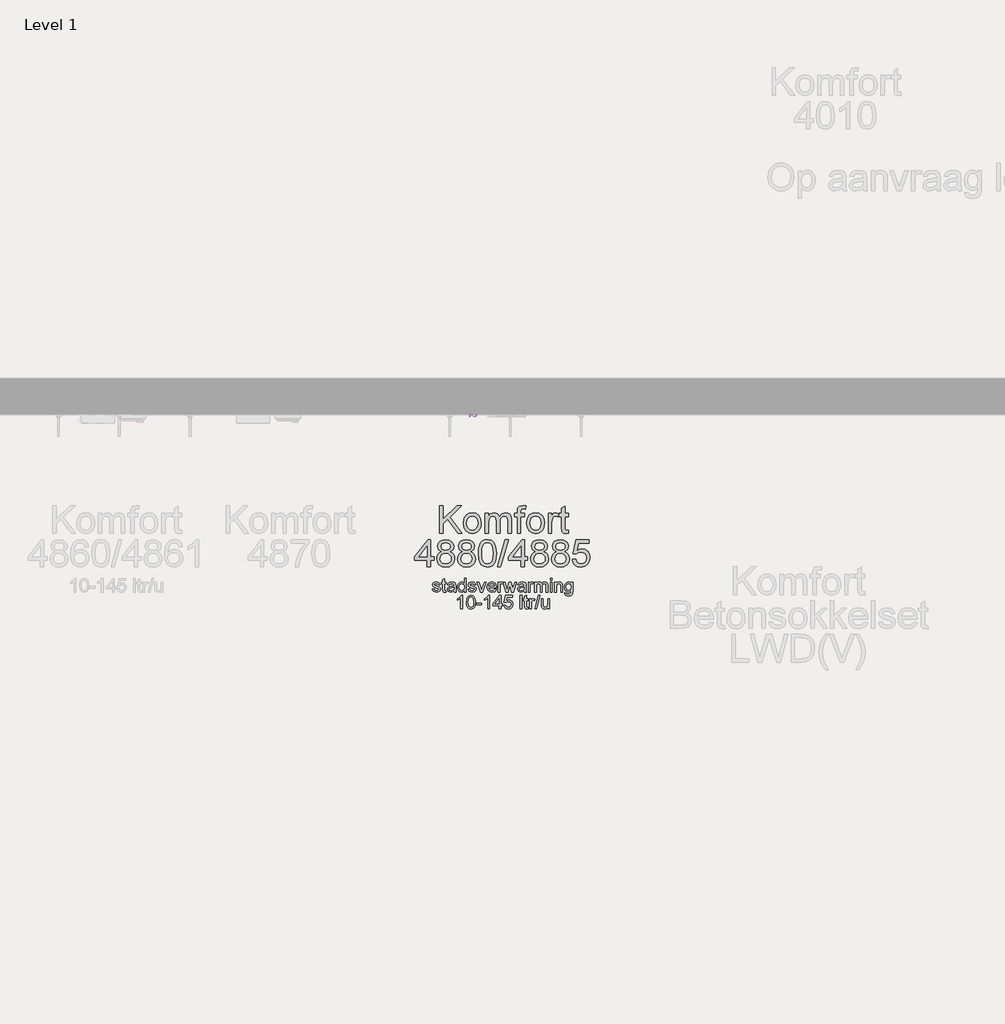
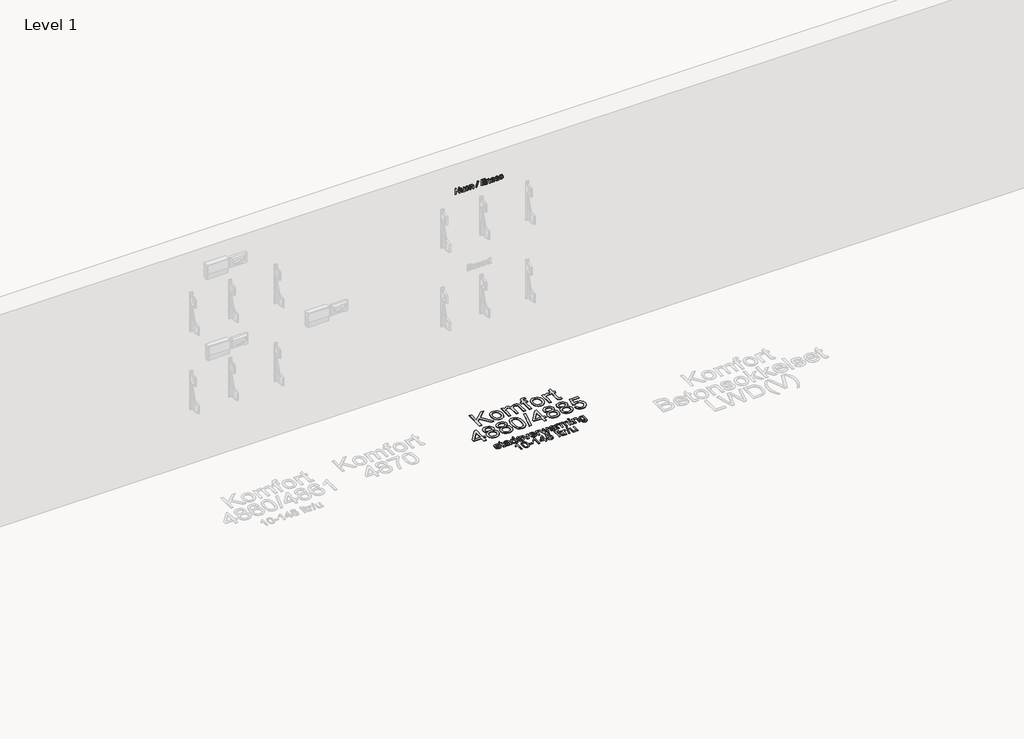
# One storey, part 25 of 34: 3 proxies.
"""IFC4 building model written with IfcOpenShell, lengths in millimetres."""

from ifc_helpers import new_model, si_unit, frame, origin, origin_with_axes, place, context, project, spatial, polyline, outline, extrude, element, save

model = new_model("IFC4")

# Units and contexts
model_context = context("Model", 3, world=origin())
ifc_project = project(units=[si_unit("LENGTHUNIT", "METRE", prefix="MILLI")], contexts=[model_context])

# Site, building, storey
site = spatial("IfcSite", under=ifc_project)
building = spatial("IfcBuilding", under=site)
storey = spatial("IfcBuildingStorey", under=building, Name="Level 1", Elevation=0.0)

# Proxies
placement = place(None, origin())
element("IfcBuildingElementProxy", 1, Name="klein", ObjectType="klein", at=placement, inside=storey, context=model_context, shape_type="SweptSolid", body=[
    extrude(outline(polyline([(1633.6596097, -4424.6620199), (1633.6596097, -4418.5081738), (1672.6740328, -4418.5081738), (1633.6596097, -4392.7870199), (1633.6596097, -4386.2004815), (1682.890379, -4386.2004815), (1682.890379, -4392.3543276), (1643.8879751, -4392.3543276), (1682.890379, -4418.0754815), (1682.890379, -4424.6620199), (1633.6596097, -4424.6620199)])), frame((0.0, 7579.9863889, 0.0), z_axis=(0.0, 1.0, 0.0), x_axis=(0.0, 0.0, 1.0)), (0.0, 0.0, 1.0), 10.0),
    extrude(outline(polyline([(1633.6596097, -4353.1235584), (1633.6596097, -4346.9697122), (1669.8134559, -4346.9697122), (1669.8134559, -4353.1235584), (1651.0033597, -4353.1235584), (1644.1463886, -4354.1211545), (1640.4144174, -4357.5165872), (1639.0442251, -4362.6548084), (1640.3843694, -4367.2401449), (1644.0682636, -4369.6740392), (1650.3423021, -4370.0466353), (1669.8134559, -4370.0466353), (1669.8134559, -4376.2004815), (1647.4456674, -4376.2004815), (1641.7245136, -4375.8399045), (1637.1932636, -4374.0069718), (1634.1163405, -4370.0165872), (1632.890379, -4364.2293276), (1634.6361722, -4357.9432699), (1639.8735521, -4353.1235584), (1633.6596097, -4353.1235584)])), frame((0.0, 7579.9863889, 0.0), z_axis=(0.0, 1.0, 0.0), x_axis=(0.0, 0.0, 1.0)), (0.0, 0.0, 1.0), 10.0),
    extrude(outline(polyline([(1651.7365328, -4340.0466353), (1637.7461482, -4335.5814911), (1632.890379, -4323.8807699), (1635.0959078, -4315.5454334), (1641.2918213, -4309.7341353), (1652.2413405, -4307.738943), (1665.7088886, -4312.2521642), (1670.5826867, -4323.8807699), (1666.5802828, -4334.7221161), (1660.4534799, -4338.7155055), (1651.7365328, -4340.0466353)]), holes=[polyline([(1651.7485521, -4333.8927892), (1661.2737924, -4331.0442315), (1664.4288405, -4323.8807699), (1661.2617732, -4316.7593757), (1651.9408597, -4313.8927892), (1642.2293213, -4316.7413468), (1639.0442251, -4323.8807699), (1642.2112924, -4331.0442315), (1651.7485521, -4333.8927892)])]), frame((0.0, 7579.9863889, 0.0), z_axis=(0.0, 1.0, 0.0), x_axis=(0.0, 0.0, 1.0)), (0.0, 0.0, 1.0), 10.0),
    extrude(outline(polyline([(1633.6596097, -4300.8158661), (1633.6596097, -4294.6620199), (1652.8423021, -4294.6620199), (1662.0129751, -4291.8555295), (1664.4288405, -4285.1788468), (1663.3531194, -4280.9540872), (1660.4745136, -4278.4480776), (1655.0298021, -4277.738943), (1633.6596097, -4277.738943), (1633.6596097, -4271.5850968), (1655.859129, -4271.5850968), (1661.8086482, -4271.9096161), (1666.3338886, -4273.754568), (1669.4108117, -4277.7209142), (1670.5826867, -4283.5322122), (1669.1283597, -4289.9564911), (1664.765379, -4294.6620199), (1669.8134559, -4294.6620199), (1669.8134559, -4300.8158661), (1633.6596097, -4300.8158661)])), frame((0.0, 7579.9863889, 0.0), z_axis=(0.0, 1.0, 0.0), x_axis=(0.0, 0.0, 1.0)), (0.0, 0.0, 1.0), 10.0),
    extrude(outline(polyline([(1633.6596097, -4248.5081738), (1633.6596097, -4242.9552892), (1682.890379, -4229.1091353), (1682.890379, -4234.6620199), (1633.6596097, -4248.5081738)])), frame((0.0, 7579.9863889, 0.0), z_axis=(0.0, 1.0, 0.0), x_axis=(0.0, 0.0, 1.0)), (0.0, 0.0, 1.0), 10.0),
    extrude(outline(polyline([(1633.6596097, -4204.6620199), (1633.6596097, -4168.5081738), (1639.8134559, -4168.5081738), (1639.8134559, -4198.5081738), (1655.9673021, -4198.5081738), (1655.9673021, -4170.8158661), (1662.1211482, -4170.8158661), (1662.1211482, -4198.5081738), (1676.7365328, -4198.5081738), (1676.7365328, -4169.2774045), (1682.890379, -4169.2774045), (1682.890379, -4204.6620199), (1633.6596097, -4204.6620199)])), frame((0.0, 7579.9863889, 0.0), z_axis=(0.0, 1.0, 0.0), x_axis=(0.0, 0.0, 1.0)), (0.0, 0.0, 1.0), 10.0),
    extrude(outline(polyline([(1633.6596097, -4160.0466353), (1633.6596097, -4153.8927892), (1652.8423021, -4153.8927892), (1662.0129751, -4151.0862988), (1664.4288405, -4144.4096161), (1663.3531194, -4140.1848565), (1660.4745136, -4137.6788468), (1655.0298021, -4136.9697122), (1633.6596097, -4136.9697122), (1633.6596097, -4130.8158661), (1655.859129, -4130.8158661), (1661.8086482, -4131.1403853), (1666.3338886, -4132.9853372), (1669.4108117, -4136.9516834), (1670.5826867, -4142.7629815), (1669.1283597, -4149.1872603), (1664.765379, -4153.8927892), (1669.8134559, -4153.8927892), (1669.8134559, -4160.0466353), (1633.6596097, -4160.0466353)])), frame((0.0, 7579.9863889, 0.0), z_axis=(0.0, 1.0, 0.0), x_axis=(0.0, 0.0, 1.0)), (0.0, 0.0, 1.0), 10.0),
    extrude(outline(polyline([(1644.4288405, -4097.0418276), (1640.3302828, -4101.0081738), (1639.0442251, -4107.0418276), (1641.8206674, -4114.9685103), (1649.8134559, -4118.5081738), (1649.8134559, -4090.8519238), (1651.4721097, -4090.8158661), (1665.5706674, -4095.4853372), (1670.5826867, -4107.5105776), (1665.5586482, -4119.8903853), (1651.4360521, -4124.6620199), (1637.7641771, -4119.9384622), (1632.890379, -4107.1620199), (1635.7148982, -4096.6512026), (1643.6596097, -4091.0081738), (1644.4288405, -4097.0418276)]), holes=[polyline([(1655.9673021, -4118.5081738), (1662.1271578, -4115.1127411), (1664.4288405, -4107.5346161), (1661.5442251, -4099.4336545), (1655.9673021, -4096.9697122), (1655.9673021, -4118.5081738)])]), frame((0.0, 7579.9863889, 0.0), z_axis=(0.0, 1.0, 0.0), x_axis=(0.0, 0.0, 1.0)), (0.0, 0.0, 1.0), 10.0),
    extrude(outline(polyline([(1646.7365328, -4061.5850968), (1640.9312444, -4064.535818), (1639.0442251, -4070.3350968), (1642.0670617, -4077.3603372), (1651.7725905, -4080.0466353), (1661.3879751, -4077.3002411), (1664.4288405, -4070.1668276), (1662.8843694, -4065.2088949), (1658.2749944, -4062.3543276), (1659.0442251, -4056.2004815), (1667.577879, -4060.8579334), (1670.5826867, -4070.2149045), (1668.3951867, -4078.5862988), (1661.8266771, -4084.3194718), (1651.6043213, -4086.2004815), (1637.7281194, -4081.7954334), (1632.890379, -4070.1307699), (1636.3579271, -4060.3711545), (1645.9673021, -4055.4312507), (1646.7365328, -4061.5850968)])), frame((0.0, 7579.9863889, 0.0), z_axis=(0.0, 1.0, 0.0), x_axis=(0.0, 0.0, 1.0)), (0.0, 0.0, 1.0), 10.0),
    extrude(outline(polyline([(1651.7365328, -4051.5850968), (1637.7461482, -4047.1199526), (1632.890379, -4035.4192315), (1635.0959078, -4027.0838949), (1641.2918213, -4021.2725968), (1652.2413405, -4019.2774045), (1665.7088886, -4023.7906257), (1670.5826867, -4035.4192315), (1666.5802828, -4046.2605776), (1660.4534799, -4050.253967), (1651.7365328, -4051.5850968)]), holes=[polyline([(1651.7485521, -4045.4312507), (1661.2737924, -4042.582693), (1664.4288405, -4035.4192315), (1661.2617732, -4028.2978372), (1651.9408597, -4025.4312507), (1642.2293213, -4028.2798084), (1639.0442251, -4035.4192315), (1642.2112924, -4042.582693), (1651.7485521, -4045.4312507)])]), frame((0.0, 7579.9863889, 0.0), z_axis=(0.0, 1.0, 0.0), x_axis=(0.0, 0.0, 1.0)), (0.0, 0.0, 1.0), 10.0),
])
element("IfcBuildingElementProxy", 2, Name="DN", ObjectType="DN", at=placement, inside=storey, context=model_context, shape_type="SweptSolid", body=[
    extrude(outline(polyline([(-4626.4103712, 6644.2118168), (-4617.179602, 6645.365663), (-4612.9067655, 6638.5147014), (-4603.117102, 6636.1348937), (-4593.7060443, 6638.3163841), (-4590.6411405, 6643.4365764), (-4593.7240732, 6647.583211), (-4603.2252751, 6650.2154226), (-4617.1255155, 6654.7316485), (-4623.1922222, 6660.005086), (-4625.2565251, 6667.4509995), (-4623.5978712, 6674.3290043), (-4619.0726309, 6679.584413), (-4613.2042414, 6682.3157832), (-4605.2625347, 6683.442586), (-4594.0305636, 6681.630687), (-4586.8911405, 6676.7268409), (-4583.7180636, 6668.442586), (-4592.9488328, 6667.2887399), (-4596.4193857, 6672.3818889), (-4604.5413809, 6674.2118168), (-4613.3755155, 6672.4630187), (-4616.0257559, 6668.3884995), (-4614.9259962, 6665.7022014), (-4611.4824866, 6663.6649418), (-4603.5317655, 6661.6997976), (-4589.9830876, 6657.3548457), (-4583.6910203, 6652.4329707), (-4581.4103712, 6644.4101341), (-4584.0876549, 6635.5759995), (-4591.8130155, 6629.1667447), (-4603.2433039, 6626.9041245), (-4619.3430636, 6631.2671053), (-4626.4103712, 6644.2118168)])), origin_with_axes(), (0.0, 0.0, 1.0), 5.0),
    extrude(outline(polyline([(-4551.4103712, 6635.756288), (-4550.2565251, 6627.787538), (-4557.1615732, 6626.9041245), (-4564.8959482, 6628.4365764), (-4568.7541212, 6632.4570091), (-4569.8719097, 6642.9317687), (-4569.8719097, 6673.0579707), (-4576.7949866, 6673.0579707), (-4576.7949866, 6682.2887399), (-4569.8719097, 6682.2887399), (-4569.8719097, 6695.4678264), (-4560.6411405, 6700.8945091), (-4560.6411405, 6682.2887399), (-4551.4103712, 6682.2887399), (-4551.4103712, 6673.0579707), (-4560.6411405, 6673.0579707), (-4560.6411405, 6643.2022014), (-4560.1543616, 6638.442586), (-4558.5768376, 6636.7568889), (-4555.4308039, 6636.1348937), (-4551.4103712, 6635.756288)])), origin_with_axes(), (0.0, 0.0, 1.0), 5.0),
    extrude(outline(polyline([(-4507.5642174, 6634.9810476), (-4516.5155395, 6628.725038), (-4526.4043616, 6626.9041245), (-4539.8088087, 6631.2851341), (-4544.4872943, 6642.4810476), (-4542.7204674, 6649.7827303), (-4538.0780395, 6655.083211), (-4531.6146982, 6658.1120572), (-4523.6279193, 6659.5002784), (-4507.6183039, 6662.6733553), (-4507.5642174, 6664.7286437), (-4510.1062847, 6671.5435476), (-4520.3106116, 6674.2118168), (-4529.6495539, 6672.4359755), (-4534.1026789, 6666.1348937), (-4543.3334482, 6667.2887399), (-4539.3400587, 6676.303163), (-4531.2991934, 6681.5856149), (-4519.1207078, 6683.442586), (-4507.9338087, 6681.801961), (-4501.6146982, 6677.6823697), (-4498.7841693, 6671.4173457), (-4498.3334482, 6663.3404226), (-4498.3334482, 6651.8560476), (-4497.8646982, 6635.8193889), (-4496.0257559, 6628.0579707), (-4505.2565251, 6628.0579707), (-4507.5642174, 6634.9810476)]), holes=[polyline([(-4507.5642174, 6653.442586), (-4522.4560443, 6650.6120572), (-4530.3977511, 6649.115663), (-4533.9945059, 6646.6817687), (-4535.2565251, 6643.130086), (-4532.5071261, 6638.1360957), (-4524.4392174, 6636.1348937), (-4515.1002751, 6638.3434274), (-4509.0786405, 6643.6889803), (-4507.6183039, 6650.8284034), (-4507.5642174, 6653.442586)])]), origin_with_axes(), (0.0, 0.0, 1.0), 5.0),
    extrude(outline(polyline([(-4452.179602, 6628.0579707), (-4452.179602, 6636.7659034), (-4458.2868737, 6629.3695692), (-4466.7288809, 6626.9041245), (-4478.1591693, 6630.473836), (-4486.2360924, 6640.4347735), (-4489.1026789, 6655.1192687), (-4486.461453, 6669.8127784), (-4478.5467895, 6679.926961), (-4466.7649386, 6683.442586), (-4458.2553232, 6680.927562), (-4452.179602, 6674.3921053), (-4452.179602, 6701.9041245), (-4442.9488328, 6701.9041245), (-4442.9488328, 6628.0579707), (-4452.179602, 6628.0579707)]), holes=[polyline([(-4479.8719097, 6655.1553264), (-4475.7072462, 6640.8674659), (-4465.8815251, 6636.1348937), (-4456.1729914, 6640.6511197), (-4452.179602, 6654.4522014), (-4456.2451068, 6669.4341726), (-4466.2601309, 6674.2118168), (-4475.9776789, 6669.6234755), (-4479.8719097, 6655.1553264)])]), origin_with_axes(), (0.0, 0.0, 1.0), 5.0),
    extrude(outline(polyline([(-4432.5642174, 6644.2118168), (-4423.3334482, 6645.365663), (-4419.0606116, 6638.5147014), (-4409.2709482, 6636.1348937), (-4399.8598905, 6638.3163841), (-4396.7949866, 6643.4365764), (-4399.8779193, 6647.583211), (-4409.3791212, 6650.2154226), (-4423.2793616, 6654.7316485), (-4429.3460684, 6660.005086), (-4431.4103712, 6667.4509995), (-4429.7517174, 6674.3290043), (-4425.226477, 6679.584413), (-4419.3580876, 6682.3157832), (-4411.4163809, 6683.442586), (-4400.1844097, 6681.630687), (-4393.0449866, 6676.7268409), (-4389.8719097, 6668.442586), (-4399.1026789, 6667.2887399), (-4402.5732318, 6672.3818889), (-4410.695227, 6674.2118168), (-4419.5293616, 6672.4630187), (-4422.179602, 6668.3884995), (-4421.0798424, 6665.7022014), (-4417.6363328, 6663.6649418), (-4409.6856116, 6661.6997976), (-4396.1369337, 6657.3548457), (-4389.8448664, 6652.4329707), (-4387.5642174, 6644.4101341), (-4390.2415011, 6635.5759995), (-4397.9668616, 6629.1667447), (-4409.3971501, 6626.9041245), (-4425.4969097, 6631.2671053), (-4432.5642174, 6644.2118168)])), origin_with_axes(), (0.0, 0.0, 1.0), 5.0),
    extrude(outline(polyline([(-4363.8743136, 6628.0579707), (-4382.9488328, 6682.2887399), (-4373.1771982, 6682.2887399), (-4361.6207078, 6649.8007591), (-4358.1411405, 6638.8752784), (-4354.7336886, 6649.1877784), (-4343.1050828, 6682.2887399), (-4333.3334482, 6682.2887399), (-4352.1735924, 6628.0579707), (-4363.8743136, 6628.0579707)])), origin_with_axes(), (0.0, 0.0, 1.0), 5.0),
    extrude(outline(polyline([(-4287.2877751, 6644.2118168), (-4278.2372943, 6643.0579707), (-4286.7018376, 6631.1409034), (-4302.4680636, 6626.9041245), (-4313.2988929, 6628.7317988), (-4321.632727, 6634.2148216), (-4326.9467294, 6642.9971233), (-4328.7180636, 6654.7226341), (-4326.9287006, 6666.842526), (-4321.5606116, 6675.9065284), (-4313.3394578, 6681.5585716), (-4302.9909001, 6683.442586), (-4292.964608, 6681.5630788), (-4284.9530395, 6675.9245572), (-4279.6998845, 6666.8785836), (-4277.9488328, 6654.7767207), (-4278.0029193, 6652.2887399), (-4319.4872943, 6652.2887399), (-4314.1777991, 6640.2995572), (-4302.2877751, 6636.1348937), (-4293.2372943, 6638.0639803), (-4287.2877751, 6644.2118168)]), holes=[polyline([(-4319.4872943, 6661.5195091), (-4287.179602, 6661.5195091), (-4290.8755155, 6669.8848937), (-4303.0269578, 6674.2118168), (-4314.3941453, 6670.7592928), (-4319.4872943, 6661.5195091)])]), origin_with_axes(), (0.0, 0.0, 1.0), 5.0),
    extrude(outline(polyline([(-4268.7180636, 6628.0579707), (-4268.7180636, 6682.2887399), (-4260.6411405, 6682.2887399), (-4260.6411405, 6674.2659034), (-4254.9079674, 6681.6577303), (-4249.1387366, 6683.442586), (-4239.8719097, 6680.5940284), (-4242.9548424, 6672.318788), (-4249.445227, 6674.2118168), (-4254.664578, 6672.3909034), (-4257.9909001, 6667.3428264), (-4259.4872943, 6656.5615764), (-4259.4872943, 6628.0579707), (-4268.7180636, 6628.0579707)])), origin_with_axes(), (0.0, 0.0, 1.0), 5.0),
    extrude(outline(polyline([(-4225.1062847, 6628.0579707), (-4241.6026789, 6682.2887399), (-4232.0113328, 6682.2887399), (-4222.6543616, 6650.6481149), (-4219.8598905, 6639.3440284), (-4217.570227, 6650.2334514), (-4210.1243136, 6682.2887399), (-4199.1267174, 6682.2887399), (-4191.7168616, 6650.3235957), (-4189.679602, 6640.4618168), (-4186.7589289, 6650.864461), (-4177.3839289, 6682.2887399), (-4167.7565251, 6682.2887399), (-4184.3791212, 6628.0579707), (-4195.538977, 6628.0579707), (-4202.6243136, 6659.8608553), (-4204.679602, 6669.7767207), (-4213.820227, 6628.0579707), (-4225.1062847, 6628.0579707)])), origin_with_axes(), (0.0, 0.0, 1.0), 5.0),
    extrude(outline(polyline([(-4126.7949866, 6634.9810476), (-4135.7463087, 6628.725038), (-4145.6351309, 6626.9041245), (-4159.039578, 6631.2851341), (-4163.7180636, 6642.4810476), (-4161.9512366, 6649.7827303), (-4157.3088087, 6655.083211), (-4150.8454674, 6658.1120572), (-4142.8586886, 6659.5002784), (-4126.8490732, 6662.6733553), (-4126.7949866, 6664.7286437), (-4129.3370539, 6671.5435476), (-4139.5413809, 6674.2118168), (-4148.8803232, 6672.4359755), (-4153.3334482, 6666.1348937), (-4162.5642174, 6667.2887399), (-4158.570828, 6676.303163), (-4150.5299626, 6681.5856149), (-4138.351477, 6683.442586), (-4127.164578, 6681.801961), (-4120.8454674, 6677.6823697), (-4118.0149386, 6671.4173457), (-4117.5642174, 6663.3404226), (-4117.5642174, 6651.8560476), (-4117.0954674, 6635.8193889), (-4115.2565251, 6628.0579707), (-4124.4872943, 6628.0579707), (-4126.7949866, 6634.9810476)]), holes=[polyline([(-4126.7949866, 6653.442586), (-4141.6868136, 6650.6120572), (-4149.6285203, 6649.115663), (-4153.2252751, 6646.6817687), (-4154.4872943, 6643.130086), (-4151.7378953, 6638.1360957), (-4143.6699866, 6636.1348937), (-4134.3310443, 6638.3434274), (-4128.3094097, 6643.6889803), (-4126.8490732, 6650.8284034), (-4126.7949866, 6653.442586)])]), origin_with_axes(), (0.0, 0.0, 1.0), 5.0),
    extrude(outline(polyline([(-4104.8719097, 6628.0579707), (-4104.8719097, 6682.2887399), (-4096.7949866, 6682.2887399), (-4096.7949866, 6674.2659034), (-4091.0618136, 6681.6577303), (-4085.2925828, 6683.442586), (-4076.0257559, 6680.5940284), (-4079.1086886, 6672.318788), (-4085.5990732, 6674.2118168), (-4090.8184241, 6672.3909034), (-4094.1447462, 6667.3428264), (-4095.6411405, 6656.5615764), (-4095.6411405, 6628.0579707), (-4104.8719097, 6628.0579707)])), origin_with_axes(), (0.0, 0.0, 1.0), 5.0),
    extrude(outline(polyline([(-4070.2565251, 6628.0579707), (-4070.2565251, 6682.2887399), (-4061.0257559, 6682.2887399), (-4061.0257559, 6673.364461), (-4054.679602, 6680.6751582), (-4045.6471501, 6683.442586), (-4036.398352, 6680.6210716), (-4031.3142174, 6672.7154226), (-4024.1116934, 6680.7607952), (-4015.0161405, 6683.442586), (-4002.945828, 6678.9804466), (-3998.7180636, 6665.2334514), (-3998.7180636, 6628.0579707), (-4007.9488328, 6628.0579707), (-4007.9488328, 6661.2671053), (-4008.805203, 6668.974437), (-4011.9061645, 6672.7695091), (-4017.179602, 6674.2118168), (-4026.2571261, 6670.5159034), (-4029.8719097, 6658.6709514), (-4029.8719097, 6628.0579707), (-4039.1026789, 6628.0579707), (-4039.1026789, 6662.2947495), (-4041.2390972, 6671.2370572), (-4048.2433039, 6674.2118168), (-4055.0762366, 6672.2286437), (-4059.6195059, 6666.4233553), (-4061.0257559, 6655.4077303), (-4061.0257559, 6628.0579707), (-4070.2565251, 6628.0579707)])), origin_with_axes(), (0.0, 0.0, 1.0), 5.0),
    extrude(outline(polyline([(-3984.8719097, 6692.6733553), (-3984.8719097, 6701.9041245), (-3975.6411405, 6701.9041245), (-3975.6411405, 6692.6733553), (-3984.8719097, 6692.6733553)])), origin_with_axes(), (0.0, 0.0, 1.0), 5.0),
    extrude(outline(polyline([(-3984.8719097, 6628.0579707), (-3984.8719097, 6682.2887399), (-3975.6411405, 6682.2887399), (-3975.6411405, 6628.0579707), (-3984.8719097, 6628.0579707)])), origin_with_axes(), (0.0, 0.0, 1.0), 5.0),
    extrude(outline(polyline([(-3961.7949866, 6628.0579707), (-3961.7949866, 6682.2887399), (-3952.5642174, 6682.2887399), (-3952.5642174, 6674.7166245), (-3945.5059241, 6681.2610957), (-3935.8695059, 6683.442586), (-3927.1525587, 6681.6847735), (-3921.2030395, 6677.0693889), (-3918.4356116, 6670.2815284), (-3917.9488328, 6661.3572495), (-3917.9488328, 6628.0579707), (-3927.179602, 6628.0579707), (-3927.179602, 6660.1132591), (-3928.2433039, 6668.2803264), (-3932.0023184, 6672.5982351), (-3938.3394578, 6674.2118168), (-3948.3544818, 6670.5880187), (-3952.5642174, 6656.8320091), (-3952.5642174, 6628.0579707), (-3961.7949866, 6628.0579707)])), origin_with_axes(), (0.0, 0.0, 1.0), 5.0),
    extrude(outline(polyline([(-3907.5642174, 6623.442586), (-3898.3334482, 6622.2887399), (-3895.3406597, 6617.4209514), (-3886.3803232, 6615.365663), (-3876.9332078, 6617.6913841), (-3872.4259962, 6624.2178264), (-3871.7949866, 6634.9810476), (-3878.2943857, 6629.7887399), (-3886.2180636, 6628.0579707), (-3895.7350407, 6630.0726942), (-3902.8316453, 6636.1168649), (-3907.246459, 6644.9780428), (-3908.7180636, 6655.443788), (-3906.0768376, 6669.7496774), (-3898.4326068, 6679.8728745), (-3886.6687847, 6683.442586), (-3878.4341092, 6681.4233553), (-3871.7949866, 6675.365663), (-3871.7949866, 6682.2887399), (-3862.5642174, 6682.2887399), (-3862.5642174, 6635.4678264), (-3865.0882559, 6617.5381389), (-3873.0840491, 6609.1997976), (-3886.5606116, 6606.1348937), (-3901.9121741, 6610.4528024), (-3906.2503652, 6615.8592026), (-3907.5642174, 6623.442586)]), holes=[polyline([(-3899.4872943, 6656.0747976), (-3895.5479914, 6641.786937), (-3885.6591693, 6637.2887399), (-3875.7883761, 6641.7598937), (-3871.7949866, 6655.8043649), (-3875.9055636, 6669.5693889), (-3885.8034001, 6674.2118168), (-3895.4939049, 6669.6415043), (-3899.4872943, 6656.0747976)])]), origin_with_axes(), (0.0, 0.0, 1.0), 5.0),
    extrude(outline(polyline([(-4462.5642174, 6536.9041245), (-4471.7949866, 6536.9041245), (-4471.7949866, 6594.4522014), (-4480.538977, 6588.2232351), (-4490.2565251, 6583.5627784), (-4490.2565251, 6592.2887399), (-4476.7258761, 6600.9245572), (-4468.5137366, 6610.7502784), (-4462.5642174, 6610.7502784), (-4462.5642174, 6536.9041245)])), origin_with_axes(), (0.0, 0.0, 1.0), 5.0),
    extrude(outline(polyline([(-4440.6411405, 6573.2322495), (-4437.9277991, 6594.4792447), (-4429.8689049, 6606.7298457), (-4416.4103712, 6610.7502784), (-4405.6291212, 6608.3704707), (-4398.1832078, 6601.5104947), (-4393.8562847, 6590.5850139), (-4392.179602, 6573.2322495), (-4394.8659001, 6552.0753985), (-4402.8977511, 6539.7977543), (-4416.4103712, 6535.7502784), (-4426.0017174, 6537.5080909), (-4433.2853712, 6542.7815284), (-4438.8021982, 6555.2710115), (-4440.6411405, 6573.2322495)]), holes=[polyline([(-4431.4103712, 6573.2502784), (-4430.3286405, 6558.7302964), (-4427.0834482, 6550.3266005), (-4416.4103712, 6544.9810476), (-4405.7372943, 6550.3446293), (-4402.492102, 6558.7528324), (-4401.4103712, 6573.2502784), (-4405.5930636, 6595.912538), (-4416.5185443, 6601.5195091), (-4426.9392174, 6596.5796053), (-4430.2925828, 6587.583211), (-4431.4103712, 6573.2502784)])]), origin_with_axes(), (0.0, 0.0, 1.0), 5.0),
    extrude(outline(polyline([(-4386.4103712, 6558.8272014), (-4386.4103712, 6568.0579707), (-4357.5642174, 6568.0579707), (-4357.5642174, 6558.8272014), (-4386.4103712, 6558.8272014)])), origin_with_axes(), (0.0, 0.0, 1.0), 5.0),
    extrude(outline(polyline([(-4314.8719097, 6536.9041245), (-4324.1026789, 6536.9041245), (-4324.1026789, 6594.4522014), (-4332.8466693, 6588.2232351), (-4342.5642174, 6583.5627784), (-4342.5642174, 6592.2887399), (-4329.0335684, 6600.9245572), (-4320.8214289, 6610.7502784), (-4314.8719097, 6610.7502784), (-4314.8719097, 6536.9041245)])), origin_with_axes(), (0.0, 0.0, 1.0), 5.0),
    extrude(outline(polyline([(-4262.9488328, 6536.9041245), (-4262.9488328, 6554.2118168), (-4296.4103712, 6554.2118168), (-4296.4103712, 6563.442586), (-4260.6411405, 6609.5964322), (-4253.7180636, 6609.5964322), (-4253.7180636, 6563.442586), (-4244.4872943, 6563.442586), (-4244.4872943, 6554.2118168), (-4253.7180636, 6554.2118168), (-4253.7180636, 6536.9041245), (-4262.9488328, 6536.9041245)]), holes=[polyline([(-4262.9488328, 6563.442586), (-4262.9488328, 6591.9642207), (-4285.0521982, 6563.442586), (-4262.9488328, 6563.442586)])]), origin_with_axes(), (0.0, 0.0, 1.0), 5.0),
    extrude(outline(polyline([(-4236.4103712, 6556.5195091), (-4227.179602, 6557.6733553), (-4222.5281597, 6548.1631389), (-4212.882727, 6544.9810476), (-4201.3082078, 6549.4071293), (-4197.179602, 6561.1529226), (-4201.0467895, 6572.114461), (-4212.7384962, 6576.1348937), (-4220.8424626, 6574.5303264), (-4226.0257559, 6570.365663), (-4235.2565251, 6571.5195091), (-4227.179602, 6609.5964322), (-4191.4103712, 6609.5964322), (-4191.4103712, 6600.365663), (-4219.7156597, 6600.365663), (-4223.663977, 6580.0291245), (-4210.1603712, 6585.365663), (-4201.535822, 6583.7115163), (-4194.3761164, 6578.7490764), (-4189.5556537, 6571.1859755), (-4187.9488328, 6561.7298457), (-4193.7360924, 6544.6024418), (-4202.0473905, 6537.9633192), (-4212.9187847, 6535.7502784), (-4221.9850407, 6537.1723036), (-4229.2078472, 6541.4383793), (-4234.1590191, 6548.0527123), (-4236.4103712, 6556.5195091)])), origin_with_axes(), (0.0, 0.0, 1.0), 5.0),
    extrude(outline(polyline([(-4148.7180636, 6536.9041245), (-4148.7180636, 6610.7502784), (-4139.4872943, 6610.7502784), (-4139.4872943, 6536.9041245), (-4148.7180636, 6536.9041245)])), origin_with_axes(), (0.0, 0.0, 1.0), 5.0),
    extrude(outline(polyline([(-4106.0257559, 6544.6024418), (-4104.8719097, 6536.6336918), (-4111.7769578, 6535.7502784), (-4119.5113328, 6537.2827303), (-4123.3695059, 6541.303163), (-4124.4872943, 6551.7779226), (-4124.4872943, 6581.9041245), (-4131.4103712, 6581.9041245), (-4131.4103712, 6591.1348937), (-4124.4872943, 6591.1348937), (-4124.4872943, 6604.3139803), (-4115.2565251, 6609.740663), (-4115.2565251, 6591.1348937), (-4106.0257559, 6591.1348937), (-4106.0257559, 6581.9041245), (-4115.2565251, 6581.9041245), (-4115.2565251, 6552.0483553), (-4114.7697462, 6547.2887399), (-4113.1922222, 6545.6030428), (-4110.0461886, 6544.9810476), (-4106.0257559, 6544.6024418)])), origin_with_axes(), (0.0, 0.0, 1.0), 5.0),
    extrude(outline(polyline([(-4096.7949866, 6536.9041245), (-4096.7949866, 6591.1348937), (-4088.7180636, 6591.1348937), (-4088.7180636, 6583.1120572), (-4082.9848905, 6590.5038841), (-4077.2156597, 6592.2887399), (-4067.9488328, 6589.4401822), (-4071.0317655, 6581.1649418), (-4077.5221501, 6583.0579707), (-4082.7415011, 6581.2370572), (-4086.0678232, 6576.1889803), (-4087.5642174, 6565.4077303), (-4087.5642174, 6536.9041245), (-4096.7949866, 6536.9041245)])), origin_with_axes(), (0.0, 0.0, 1.0), 5.0),
    extrude(outline(polyline([(-4069.1026789, 6536.9041245), (-4048.3334482, 6610.7502784), (-4040.0041212, 6610.7502784), (-4060.773352, 6536.9041245), (-4069.1026789, 6536.9041245)])), origin_with_axes(), (0.0, 0.0, 1.0), 5.0),
    extrude(outline(polyline([(-3998.7180636, 6536.9041245), (-3998.7180636, 6546.225038), (-4005.9476309, 6538.3689683), (-4015.3767174, 6535.7502784), (-4024.0576068, 6537.5892207), (-4030.0431837, 6542.2046053), (-4032.7925828, 6549.0014803), (-4033.3334482, 6557.583211), (-4033.3334482, 6591.1348937), (-4024.1026789, 6591.1348937), (-4024.1026789, 6561.928163), (-4023.5437847, 6552.5171053), (-4019.8929434, 6546.9912639), (-4013.0149386, 6544.9810476), (-4005.3076068, 6547.036336), (-4000.2144578, 6552.6342928), (-3998.7180636, 6562.9197495), (-3998.7180636, 6591.1348937), (-3989.4872943, 6591.1348937), (-3989.4872943, 6536.9041245), (-3998.7180636, 6536.9041245)])), origin_with_axes(), (0.0, 0.0, 1.0), 5.0),
])
element("IfcBuildingElementProxy", 3, Name="type", ObjectType="type", at=placement, inside=storey, context=model_context, shape_type="SweptSolid", body=[
    extrude(outline(polyline([(-4586.6026789, 6948.0579707), (-4586.6026789, 7095.7502784), (-4568.1411405, 7095.7502784), (-4568.1411405, 7023.4546053), (-4492.4199866, 7095.7502784), (-4466.6026789, 7095.7502784), (-4530.1723905, 7035.0291245), (-4464.2949866, 6948.0579707), (-4486.867102, 6948.0579707), (-4543.2613328, 7022.553163), (-4568.1411405, 6998.8272014), (-4568.1411405, 6948.0579707), (-4586.6026789, 6948.0579707)])), origin_with_axes(), (0.0, 0.0, 1.0), 5.0),
    extrude(outline(polyline([(-4457.3719097, 7002.2887399), (-4453.3785203, 7028.4395812), (-4441.398352, 7046.8199899), (-4426.5966693, 7055.8253985), (-4408.8743136, 7058.8272014), (-4389.4797823, 7055.1718529), (-4373.9884962, 7044.2058072), (-4363.8337487, 7026.794449), (-4360.4488328, 7003.803163), (-4361.945227, 6985.1523216), (-4366.4344097, 6970.9546053), (-4373.7856717, 6960.3220933), (-4383.8683039, 6952.3668649), (-4395.843965, 6947.404425), (-4408.8743136, 6945.7502784), (-4428.5032198, 6949.3921053), (-4443.976477, 6960.317586), (-4454.0230515, 6978.0940284), (-4457.3719097, 7002.2887399)]), holes=[polyline([(-4438.9103712, 7002.3247976), (-4436.773953, 6985.6165644), (-4430.3646982, 6973.7130187), (-4420.7192655, 6966.5871173), (-4408.8743136, 6964.2118168), (-4397.0834482, 6966.6006389), (-4387.4560443, 6973.7671053), (-4381.0467895, 6985.8284034), (-4378.9103712, 7002.9017207), (-4381.0603112, 7019.123175), (-4387.5101309, 7030.864461), (-4397.1510563, 7037.9903625), (-4408.8743136, 7040.365663), (-4420.7192655, 7037.9993769), (-4430.3646982, 7030.9005187), (-4436.773953, 7019.0240163), (-4438.9103712, 7002.3247976)])]), origin_with_axes(), (0.0, 0.0, 1.0), 5.0),
    extrude(outline(polyline([(-4339.679602, 6948.0579707), (-4339.679602, 7056.5195091), (-4321.2180636, 7056.5195091), (-4321.2180636, 7038.6709514), (-4308.5257559, 7053.2923457), (-4290.460852, 7058.8272014), (-4280.1934241, 7057.4164442), (-4271.9632559, 7053.1841726), (-4261.7949866, 7037.3728745), (-4247.3899386, 7053.4636197), (-4229.1988328, 7058.8272014), (-4215.3211285, 7056.5961317), (-4205.0582078, 7049.9029226), (-4198.7165612, 7038.5672856), (-4196.6026789, 7022.4089322), (-4196.6026789, 6948.0579707), (-4215.0642174, 6948.0579707), (-4215.0642174, 7014.4762399), (-4216.7769578, 7029.8909034), (-4222.9788809, 7037.4810476), (-4233.5257559, 7040.365663), (-4243.5272583, 7038.5177062), (-4251.6808039, 7032.973836), (-4257.1029794, 7023.3554466), (-4258.9103712, 7009.2839322), (-4258.9103712, 6948.0579707), (-4277.3719097, 6948.0579707), (-4277.3719097, 7016.5315284), (-4281.6447462, 7034.4161437), (-4287.2832679, 7038.8782832), (-4295.6531597, 7040.365663), (-4309.3190251, 7036.3993168), (-4318.4055636, 7024.7887399), (-4321.2180636, 7002.7574899), (-4321.2180636, 6948.0579707), (-4339.679602, 6948.0579707)])), origin_with_axes(), (0.0, 0.0, 1.0), 5.0),
    extrude(outline(polyline([(-4164.2949866, 6948.0579707), (-4164.2949866, 7038.0579707), (-4180.4488328, 7038.0579707), (-4180.4488328, 7056.5195091), (-4164.2949866, 7056.5195091), (-4164.2949866, 7067.4449899), (-4162.3478712, 7082.8416245), (-4152.9007559, 7093.8392207), (-4134.2949866, 7098.0579707), (-4117.4560443, 7096.0387399), (-4120.1603712, 7078.7310476), (-4130.7973905, 7079.5964322), (-4142.4259962, 7076.5315284), (-4145.8334482, 7065.1012399), (-4145.8334482, 7056.5195091), (-4125.0642174, 7056.5195091), (-4125.0642174, 7038.0579707), (-4145.8334482, 7038.0579707), (-4145.8334482, 6948.0579707), (-4164.2949866, 6948.0579707)])), origin_with_axes(), (0.0, 0.0, 1.0), 5.0),
    extrude(outline(polyline([(-4113.5257559, 7002.2887399), (-4109.5323664, 7028.4395812), (-4097.5521982, 7046.8199899), (-4082.7505155, 7055.8253985), (-4065.0281597, 7058.8272014), (-4045.6336285, 7055.1718529), (-4030.1423424, 7044.2058072), (-4019.9875948, 7026.794449), (-4016.6026789, 7003.803163), (-4018.0990732, 6985.1523216), (-4022.5882559, 6970.9546053), (-4029.9395179, 6960.3220933), (-4040.0221501, 6952.3668649), (-4051.9978112, 6947.404425), (-4065.0281597, 6945.7502784), (-4084.657066, 6949.3921053), (-4100.1303232, 6960.317586), (-4110.1768977, 6978.0940284), (-4113.5257559, 7002.2887399)]), holes=[polyline([(-4095.0642174, 7002.3247976), (-4092.9277991, 6985.6165644), (-4086.5185443, 6973.7130187), (-4076.8731116, 6966.5871173), (-4065.0281597, 6964.2118168), (-4053.2372943, 6966.6006389), (-4043.6098905, 6973.7671053), (-4037.2006357, 6985.8284034), (-4035.0642174, 7002.9017207), (-4037.2141573, 7019.123175), (-4043.663977, 7030.864461), (-4053.3049025, 7037.9903625), (-4065.0281597, 7040.365663), (-4076.8731116, 7037.9993769), (-4086.5185443, 7030.9005187), (-4092.9277991, 7019.0240163), (-4095.0642174, 7002.3247976)])]), origin_with_axes(), (0.0, 0.0, 1.0), 5.0),
    extrude(outline(polyline([(-3995.8334482, 6948.0579707), (-3995.8334482, 7056.5195091), (-3979.679602, 7056.5195091), (-3979.679602, 7040.473836), (-3968.2132559, 7055.2574899), (-3956.6747943, 7058.8272014), (-3938.1411405, 7053.130086), (-3944.3070059, 7036.5796053), (-3957.2877751, 7040.365663), (-3967.726477, 7036.723836), (-3974.3791212, 7026.6276822), (-3977.3719097, 7005.0651822), (-3977.3719097, 6948.0579707), (-3995.8334482, 6948.0579707)])), origin_with_axes(), (0.0, 0.0, 1.0), 5.0),
    extrude(outline(polyline([(-3887.3719097, 6963.4546053), (-3885.0642174, 6947.5171053), (-3898.8743136, 6945.7502784), (-3914.3430636, 6948.8151822), (-3922.0594097, 6956.8560476), (-3924.2949866, 6977.8055668), (-3924.2949866, 7038.0579707), (-3938.1411405, 7038.0579707), (-3938.1411405, 7056.5195091), (-3924.2949866, 7056.5195091), (-3924.2949866, 7082.8776822), (-3905.8334482, 7093.7310476), (-3905.8334482, 7056.5195091), (-3887.3719097, 7056.5195091), (-3887.3719097, 7038.0579707), (-3905.8334482, 7038.0579707), (-3905.8334482, 6978.3464322), (-3904.8598905, 6968.8272014), (-3901.7048424, 6965.4558072), (-3895.4127751, 6964.2118168), (-3887.3719097, 6963.4546053)])), origin_with_axes(), (0.0, 0.0, 1.0), 5.0),
    extrude(outline(polyline([(-4654.679602, 6765.7502784), (-4654.679602, 6800.365663), (-4721.6026789, 6800.365663), (-4721.6026789, 6818.8272014), (-4650.0642174, 6911.1348937), (-4636.2180636, 6911.1348937), (-4636.2180636, 6818.8272014), (-4617.7565251, 6818.8272014), (-4617.7565251, 6800.365663), (-4636.2180636, 6800.365663), (-4636.2180636, 6765.7502784), (-4654.679602, 6765.7502784)]), holes=[polyline([(-4654.679602, 6818.8272014), (-4654.679602, 6875.8704707), (-4698.8863328, 6818.8272014), (-4654.679602, 6818.8272014)])]), origin_with_axes(), (0.0, 0.0, 1.0), 5.0),
    extrude(outline(polyline([(-4574.7036405, 6847.0964322), (-4591.5245539, 6858.5627784), (-4596.9872943, 6876.411336), (-4594.0125347, 6890.8434274), (-4585.0882559, 6902.7695091), (-4571.2150587, 6910.7743168), (-4553.3935443, 6913.442586), (-4535.4638568, 6910.7112159), (-4521.4103712, 6902.5171053), (-4512.3238328, 6890.4017207), (-4509.2949866, 6875.9065284), (-4514.6856116, 6858.5086918), (-4531.0377751, 6847.0964322), (-4519.6750948, 6841.2415644), (-4511.4043616, 6832.6192687), (-4506.3607919, 6821.6442086), (-4504.679602, 6808.7310476), (-4508.0149386, 6791.0808072), (-4518.0209482, 6776.4954707), (-4533.4716693, 6766.7058072), (-4553.1411405, 6763.442586), (-4572.8106116, 6766.7193288), (-4588.2613328, 6776.5495572), (-4598.2673424, 6791.2746173), (-4601.6026789, 6809.2358553), (-4599.8538809, 6822.6493168), (-4594.6074866, 6833.6829707), (-4586.1339289, 6841.958211), (-4574.7036405, 6847.0964322)]), holes=[polyline([(-4578.5257559, 6875.8704707), (-4576.8896381, 6867.8115764), (-4571.9812847, 6861.3752784), (-4563.9449265, 6857.1565284), (-4552.9247943, 6855.7502784), (-4542.1615732, 6857.1475139), (-4534.2469097, 6861.3392207), (-4529.3791212, 6867.5591726), (-4527.7565251, 6875.0411437), (-4529.4332078, 6882.8070692), (-4534.4632559, 6889.2298457), (-4542.4860924, 6893.5432471), (-4553.1411405, 6894.9810476), (-4563.8637967, 6893.5747976), (-4571.8731116, 6889.3560476), (-4576.8625948, 6883.1721534), (-4578.5257559, 6875.8704707)]), polyline([(-4583.1411405, 6809.8848937), (-4580.0582078, 6795.9846534), (-4569.1507559, 6785.5820091), (-4552.9969097, 6781.9041245), (-4540.4308039, 6783.8377183), (-4531.0017174, 6789.6384995), (-4525.1062847, 6798.4230548), (-4523.1411405, 6809.3079707), (-4525.1693857, 6820.3776822), (-4531.2541212, 6829.3560476), (-4540.8995539, 6835.3055668), (-4553.6098905, 6837.2887399), (-4566.000215, 6835.3326101), (-4575.3346501, 6829.4642207), (-4581.1895179, 6820.6571293), (-4583.1411405, 6809.8848937)])]), origin_with_axes(), (0.0, 0.0, 1.0), 5.0),
    extrude(outline(polyline([(-4461.6267174, 6847.0964322), (-4478.4476309, 6858.5627784), (-4483.9103712, 6876.411336), (-4480.9356116, 6890.8434274), (-4472.0113328, 6902.7695091), (-4458.1381357, 6910.7743168), (-4440.3166212, 6913.442586), (-4422.3869337, 6910.7112159), (-4408.3334482, 6902.5171053), (-4399.2469097, 6890.4017207), (-4396.2180636, 6875.9065284), (-4401.6086886, 6858.5086918), (-4417.960852, 6847.0964322), (-4406.5981717, 6841.2415644), (-4398.3274386, 6832.6192687), (-4393.2838688, 6821.6442086), (-4391.6026789, 6808.7310476), (-4394.9380155, 6791.0808072), (-4404.9440251, 6776.4954707), (-4420.3947462, 6766.7058072), (-4440.0642174, 6763.442586), (-4459.7336886, 6766.7193288), (-4475.1844097, 6776.5495572), (-4485.1904193, 6791.2746173), (-4488.5257559, 6809.2358553), (-4486.7769578, 6822.6493168), (-4481.5305636, 6833.6829707), (-4473.0570059, 6841.958211), (-4461.6267174, 6847.0964322)]), holes=[polyline([(-4465.4488328, 6875.8704707), (-4463.812715, 6867.8115764), (-4458.9043616, 6861.3752784), (-4450.8680035, 6857.1565284), (-4439.8478712, 6855.7502784), (-4429.0846501, 6857.1475139), (-4421.1699866, 6861.3392207), (-4416.3021982, 6867.5591726), (-4414.679602, 6875.0411437), (-4416.3562847, 6882.8070692), (-4421.3863328, 6889.2298457), (-4429.4091693, 6893.5432471), (-4440.0642174, 6894.9810476), (-4450.7868737, 6893.5747976), (-4458.7961886, 6889.3560476), (-4463.7856717, 6883.1721534), (-4465.4488328, 6875.8704707)]), polyline([(-4470.0642174, 6809.8848937), (-4466.9812847, 6795.9846534), (-4456.0738328, 6785.5820091), (-4439.9199866, 6781.9041245), (-4427.3538809, 6783.8377183), (-4417.9247943, 6789.6384995), (-4412.0293616, 6798.4230548), (-4410.0642174, 6809.3079707), (-4412.0924626, 6820.3776822), (-4418.1771982, 6829.3560476), (-4427.8226309, 6835.3055668), (-4440.5329674, 6837.2887399), (-4452.9232919, 6835.3326101), (-4462.257727, 6829.4642207), (-4468.1125948, 6820.6571293), (-4470.0642174, 6809.8848937)])]), origin_with_axes(), (0.0, 0.0, 1.0), 5.0),
    extrude(outline(polyline([(-4375.4488328, 6838.4065284), (-4374.0921621, 6862.0468529), (-4370.0221501, 6880.9005187), (-4363.2793616, 6895.2559875), (-4353.9043616, 6905.4017207), (-4341.8295419, 6911.4323697), (-4326.9872943, 6913.442586), (-4305.4247943, 6908.6829707), (-4290.5329674, 6894.9630187), (-4281.8791212, 6873.1120572), (-4278.5257559, 6838.4065284), (-4279.8689049, 6814.9014202), (-4283.898352, 6796.0928264), (-4290.6005756, 6781.723836), (-4299.9620539, 6771.537538), (-4312.0639169, 6765.466324), (-4326.9872943, 6763.442586), (-4346.1699866, 6766.958211), (-4360.7372943, 6777.505086), (-4371.7709482, 6802.4840524), (-4375.4488328, 6838.4065284)]), holes=[polyline([(-4356.9872943, 6838.442586), (-4354.8238328, 6809.4026221), (-4348.3334482, 6792.5952303), (-4338.6699866, 6784.576901), (-4326.9872943, 6781.9041245), (-4315.304602, 6784.5859154), (-4305.6411405, 6792.631288), (-4299.1507559, 6809.4476942), (-4296.9872943, 6838.442586), (-4299.0786405, 6866.8290043), (-4305.3526789, 6883.7671053), (-4314.9981116, 6892.177562), (-4327.2036405, 6894.9810476), (-4338.7601309, 6892.5110957), (-4348.0449866, 6885.1012399), (-4354.7517174, 6867.1084514), (-4356.9872943, 6838.442586)])]), origin_with_axes(), (0.0, 0.0, 1.0), 5.0),
    extrude(outline(polyline([(-4271.6026789, 6765.7502784), (-4230.0642174, 6913.442586), (-4213.4055636, 6913.442586), (-4254.9440251, 6765.7502784), (-4271.6026789, 6765.7502784)])), origin_with_axes(), (0.0, 0.0, 1.0), 5.0),
    extrude(outline(polyline([(-4144.679602, 6765.7502784), (-4144.679602, 6800.365663), (-4211.6026789, 6800.365663), (-4211.6026789, 6818.8272014), (-4140.0642174, 6911.1348937), (-4126.2180636, 6911.1348937), (-4126.2180636, 6818.8272014), (-4107.7565251, 6818.8272014), (-4107.7565251, 6800.365663), (-4126.2180636, 6800.365663), (-4126.2180636, 6765.7502784), (-4144.679602, 6765.7502784)]), holes=[polyline([(-4144.679602, 6818.8272014), (-4144.679602, 6875.8704707), (-4188.8863328, 6818.8272014), (-4144.679602, 6818.8272014)])]), origin_with_axes(), (0.0, 0.0, 1.0), 5.0),
    extrude(outline(polyline([(-4064.7036405, 6847.0964322), (-4081.5245539, 6858.5627784), (-4086.9872943, 6876.411336), (-4084.0125347, 6890.8434274), (-4075.0882559, 6902.7695091), (-4061.2150587, 6910.7743168), (-4043.3935443, 6913.442586), (-4025.4638568, 6910.7112159), (-4011.4103712, 6902.5171053), (-4002.3238328, 6890.4017207), (-3999.2949866, 6875.9065284), (-4004.6856116, 6858.5086918), (-4021.0377751, 6847.0964322), (-4009.6750948, 6841.2415644), (-4001.4043616, 6832.6192687), (-3996.3607919, 6821.6442086), (-3994.679602, 6808.7310476), (-3998.0149386, 6791.0808072), (-4008.0209482, 6776.4954707), (-4023.4716693, 6766.7058072), (-4043.1411405, 6763.442586), (-4062.8106116, 6766.7193288), (-4078.2613328, 6776.5495572), (-4088.2673424, 6791.2746173), (-4091.6026789, 6809.2358553), (-4089.8538809, 6822.6493168), (-4084.6074866, 6833.6829707), (-4076.1339289, 6841.958211), (-4064.7036405, 6847.0964322)]), holes=[polyline([(-4068.5257559, 6875.8704707), (-4066.8896381, 6867.8115764), (-4061.9812847, 6861.3752784), (-4053.9449265, 6857.1565284), (-4042.9247943, 6855.7502784), (-4032.1615732, 6857.1475139), (-4024.2469097, 6861.3392207), (-4019.3791212, 6867.5591726), (-4017.7565251, 6875.0411437), (-4019.4332078, 6882.8070692), (-4024.4632559, 6889.2298457), (-4032.4860924, 6893.5432471), (-4043.1411405, 6894.9810476), (-4053.8637967, 6893.5747976), (-4061.8731116, 6889.3560476), (-4066.8625948, 6883.1721534), (-4068.5257559, 6875.8704707)]), polyline([(-4073.1411405, 6809.8848937), (-4070.0582078, 6795.9846534), (-4059.1507559, 6785.5820091), (-4042.9969097, 6781.9041245), (-4030.4308039, 6783.8377183), (-4021.0017174, 6789.6384995), (-4015.1062847, 6798.4230548), (-4013.1411405, 6809.3079707), (-4015.1693857, 6820.3776822), (-4021.2541212, 6829.3560476), (-4030.8995539, 6835.3055668), (-4043.6098905, 6837.2887399), (-4056.000215, 6835.3326101), (-4065.3346501, 6829.4642207), (-4071.1895179, 6820.6571293), (-4073.1411405, 6809.8848937)])]), origin_with_axes(), (0.0, 0.0, 1.0), 5.0),
    extrude(outline(polyline([(-3951.6267174, 6847.0964322), (-3968.4476309, 6858.5627784), (-3973.9103712, 6876.411336), (-3970.9356116, 6890.8434274), (-3962.0113328, 6902.7695091), (-3948.1381357, 6910.7743168), (-3930.3166212, 6913.442586), (-3912.3869337, 6910.7112159), (-3898.3334482, 6902.5171053), (-3889.2469097, 6890.4017207), (-3886.2180636, 6875.9065284), (-3891.6086886, 6858.5086918), (-3907.960852, 6847.0964322), (-3896.5981717, 6841.2415644), (-3888.3274386, 6832.6192687), (-3883.2838688, 6821.6442086), (-3881.6026789, 6808.7310476), (-3884.9380155, 6791.0808072), (-3894.9440251, 6776.4954707), (-3910.3947462, 6766.7058072), (-3930.0642174, 6763.442586), (-3949.7336886, 6766.7193288), (-3965.1844097, 6776.5495572), (-3975.1904193, 6791.2746173), (-3978.5257559, 6809.2358553), (-3976.7769578, 6822.6493168), (-3971.5305636, 6833.6829707), (-3963.0570059, 6841.958211), (-3951.6267174, 6847.0964322)]), holes=[polyline([(-3955.4488328, 6875.8704707), (-3953.812715, 6867.8115764), (-3948.9043616, 6861.3752784), (-3940.8680035, 6857.1565284), (-3929.8478712, 6855.7502784), (-3919.0846501, 6857.1475139), (-3911.1699866, 6861.3392207), (-3906.3021982, 6867.5591726), (-3904.679602, 6875.0411437), (-3906.3562847, 6882.8070692), (-3911.3863328, 6889.2298457), (-3919.4091693, 6893.5432471), (-3930.0642174, 6894.9810476), (-3940.7868737, 6893.5747976), (-3948.7961886, 6889.3560476), (-3953.7856717, 6883.1721534), (-3955.4488328, 6875.8704707)]), polyline([(-3960.0642174, 6809.8848937), (-3956.9812847, 6795.9846534), (-3946.0738328, 6785.5820091), (-3929.9199866, 6781.9041245), (-3917.3538809, 6783.8377183), (-3907.9247943, 6789.6384995), (-3902.0293616, 6798.4230548), (-3900.0642174, 6809.3079707), (-3902.0924626, 6820.3776822), (-3908.1771982, 6829.3560476), (-3917.8226309, 6835.3055668), (-3930.5329674, 6837.2887399), (-3942.9232919, 6835.3326101), (-3952.257727, 6829.4642207), (-3958.1125948, 6820.6571293), (-3960.0642174, 6809.8848937)])]), origin_with_axes(), (0.0, 0.0, 1.0), 5.0),
    extrude(outline(polyline([(-3865.4488328, 6804.9810476), (-3846.9872943, 6807.2887399), (-3843.5978712, 6796.2055067), (-3837.6844097, 6788.2683072), (-3829.273953, 6783.4951702), (-3818.3935443, 6781.9041245), (-3805.1603712, 6784.1171654), (-3795.2445059, 6790.756288), (-3789.0515972, 6801.0552663), (-3786.9872943, 6814.2478745), (-3788.9208881, 6826.6697495), (-3794.7216693, 6836.1709514), (-3804.4347102, 6842.2016005), (-3818.1050828, 6844.2118168), (-3834.3130155, 6841.0026822), (-3844.679602, 6832.6733553), (-3863.1411405, 6834.9810476), (-3846.9872943, 6911.1348937), (-3775.4488328, 6911.1348937), (-3775.4488328, 6892.6733553), (-3832.0594097, 6892.6733553), (-3839.9560443, 6852.0002784), (-3826.7679434, 6860.005086), (-3812.9488328, 6862.6733553), (-3795.6997342, 6859.365062), (-3781.3803232, 6849.4401822), (-3771.7393977, 6834.3139803), (-3768.5257559, 6815.4017207), (-3771.4193857, 6796.9401822), (-3780.1002751, 6781.146913), (-3796.7228712, 6767.8686678), (-3818.4656597, 6763.442586), (-3836.5981717, 6766.2866365), (-3851.0437847, 6774.818788), (-3860.9461285, 6788.0474538), (-3865.4488328, 6804.9810476)])), origin_with_axes(), (0.0, 0.0, 1.0), 5.0),
])

save(model, "model.ifc")
